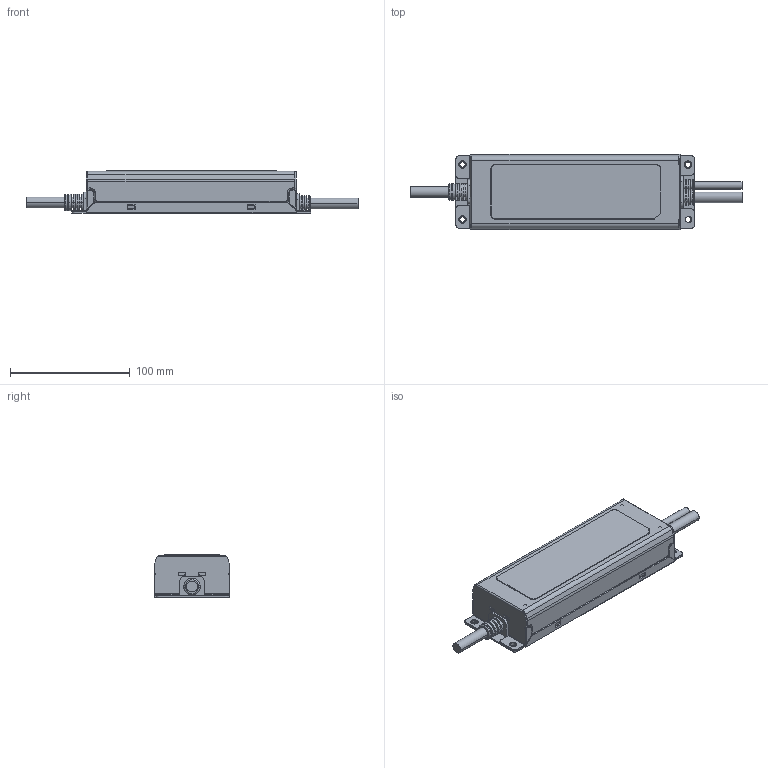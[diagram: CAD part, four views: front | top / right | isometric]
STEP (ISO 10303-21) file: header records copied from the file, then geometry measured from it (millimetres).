
FILE_DESCRIPTION(('Creo Elements/Direct Modeling STEP Export'),'2;1');
FILE_NAME('ELG-100.stp','2015-05-22T10:43:59',(''),(''),'PTC Creo Elements/Direct Modeling STEP processor for AP214 (Solid Model)','PTC Creo Elements/Direct Modeling 19.0 09-May-2014 (C) Parametric Technology GmbH','');
FILE_SCHEMA(('AUTOMOTIVE_DESIGN { 1 0 10303 214 1 1 1 1 }'));
Length unit declared in the file: millimetre
Products named in the file (2): ELG-100
Assembly tree (1 placements, depth 2):
  ELG-100
    ELG-100
Bounding box: 276.72 x 63.13 x 35.5 mm (x, y, z)
Volume: 66862.1 mm3; surface area: 94645.3 mm2
Topology: 1 solids, 1 shells, 887 faces, 2333 edges, 1506 vertices
Faces by surface type: plane 522, cylinder 267, torus 62, cone 22, bspline 10, sphere 4
Entity records: 29056 total; most frequent: CARTESIAN_POINT 7180, ORIENTED_EDGE 4658, DIRECTION 4269, EDGE_CURVE 2329, VECTOR 1509, LINE 1509, VERTEX_POINT 1506, AXIS2_PLACEMENT_3D 1380
